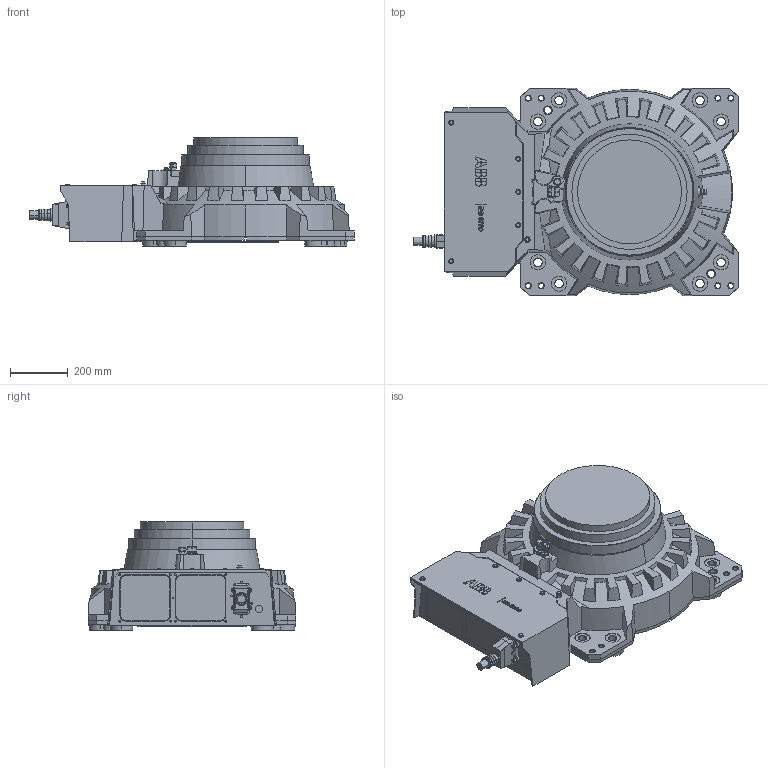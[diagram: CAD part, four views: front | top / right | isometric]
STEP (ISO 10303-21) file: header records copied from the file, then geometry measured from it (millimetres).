
FILE_DESCRIPTION (( 'STEP AP214' ), '1' );
FILE_NAME ('IRB6720-LID_215kg-265_OC_00_BASE_CAD.step', '2026-05-26T08:18:54', ( '' ), ( '' ), 'SwSTEP 2.0', 'SolidWorks 2024', '' );
FILE_SCHEMA (( 'AUTOMOTIVE_DESIGN' ));
Length unit declared in the file: millimetre
Products named in the file (1): IRB6720-LID_215kg-265_OC_00_BASE_CAD
Bounding box: 1124.5 x 720 x 374 mm (x, y, z)
Volume: 118805682.3 mm3; surface area: 2785973.4 mm2
Topology: 1 solids, 4 shells, 1129 faces, 2894 edges, 1876 vertices
Faces by surface type: plane 617, cylinder 257, cone 194, bspline 46, torus 11, sphere 4
Entity records: 50055 total; most frequent: CARTESIAN_POINT 10309, ORIENTED_EDGE 5780, DIRECTION 5504, EDGE_CURVE 2890, AXIS2_PLACEMENT_3D 1927, VERTEX_POINT 1876, VECTOR 1650, LINE 1650
